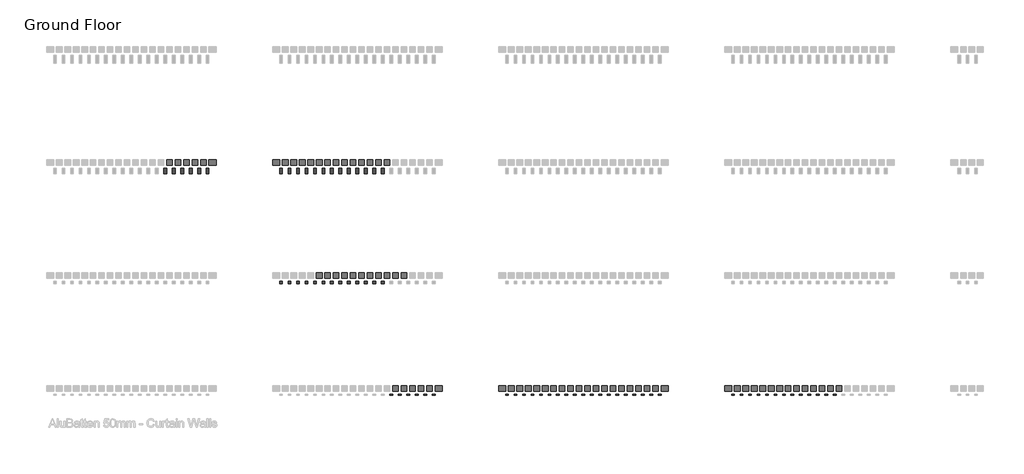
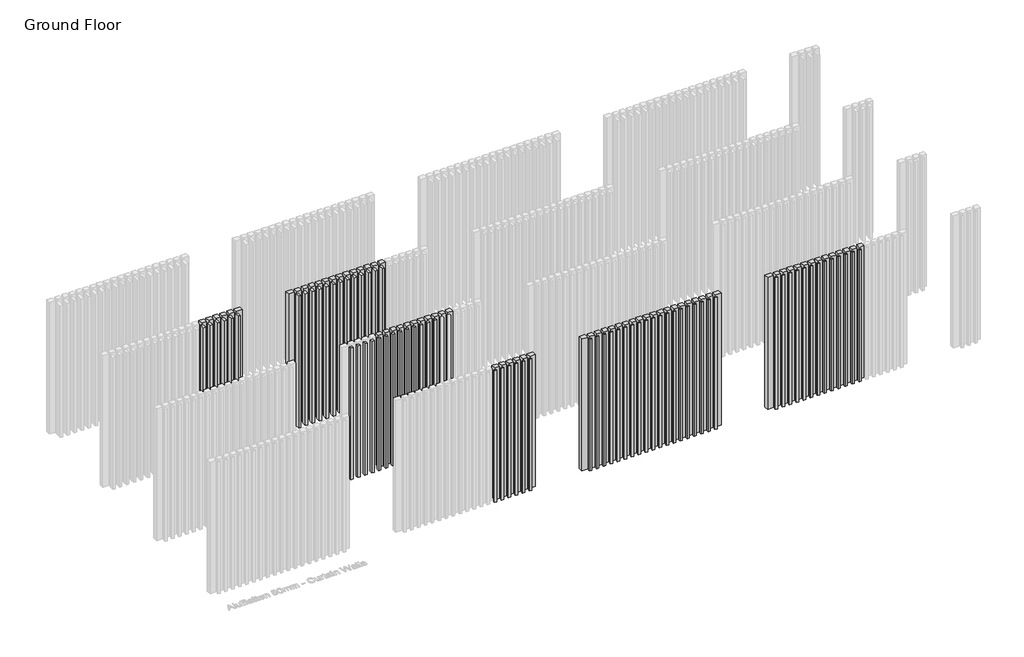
# One storey, part 13 of 350: 71 plates, 70 members.
"""IFC4 building model written with IfcOpenShell, lengths in millimetres."""

from ifc_helpers import new_model, si_unit, origin, place, context, project, spatial, transform, mapped, element, save
from components import rectangular_mullion_1e7650be, rectangular_mullion_114f6a8f, rectangular_mullion_e9fc8109, empty_system_panel_empty_a8601f27, empty_system_panel_empty_23ba90fe, empty_system_panel_empty_02e968fa

model = new_model("IFC4")

# Units and contexts
model_context = context("Model", 3, world=origin())
ifc_project = project(units=[si_unit("LENGTHUNIT", "METRE", prefix="MILLI")], contexts=[model_context])

# Site, building, storey
site = spatial("IfcSite", under=ifc_project)
building = spatial("IfcBuilding", under=site)
storey = spatial("IfcBuildingStorey", under=building, Name="Ground Floor", Elevation=0.0)

# Members
placement = place(None, origin())
rectangular_mullion_shape = rectangular_mullion_1e7650be(model_context)
element("IfcMember", 1, ObjectType="Rectangular Mullion : Batten_Aluminium_Modinex_AluBatten_50x50_Cedar", at=placement, inside=storey, context=model_context, shape_type="MappedRepresentation", body=[
    mapped(rectangular_mullion_shape, transform((6066.4361642, 20968.2978302, 0.0), x_axis=(1.0, 0.0, 0.0), y_axis=(0.0, -1.0, 0.0), z_axis=(0.0, 0.0, -1.0))),
])
element("IfcMember", 2, ObjectType="Rectangular Mullion : Batten_Aluminium_Modinex_AluBatten_50x50_Cedar", at=placement, inside=storey, context=model_context, shape_type="MappedRepresentation", body=[
    mapped(rectangular_mullion_shape, transform((6216.4361642, 20968.2978302, 0.0), x_axis=(1.0, 0.0, 0.0), y_axis=(0.0, -1.0, 0.0), z_axis=(0.0, 0.0, -1.0))),
])
element("IfcMember", 3, ObjectType="Rectangular Mullion : Batten_Aluminium_Modinex_AluBatten_50x50_Cedar", at=placement, inside=storey, context=model_context, shape_type="MappedRepresentation", body=[
    mapped(rectangular_mullion_shape, transform((6366.4361642, 20968.2978302, 0.0), x_axis=(1.0, 0.0, 0.0), y_axis=(0.0, -1.0, 0.0), z_axis=(0.0, 0.0, -1.0))),
])
element("IfcMember", 4, ObjectType="Rectangular Mullion : Batten_Aluminium_Modinex_AluBatten_50x50_Cedar", at=placement, inside=storey, context=model_context, shape_type="MappedRepresentation", body=[
    mapped(rectangular_mullion_shape, transform((6516.4361642, 20968.2978302, 0.0), x_axis=(1.0, 0.0, 0.0), y_axis=(0.0, -1.0, 0.0), z_axis=(0.0, 0.0, -1.0))),
])
element("IfcMember", 5, ObjectType="Rectangular Mullion : Batten_Aluminium_Modinex_AluBatten_50x50_Cedar", at=placement, inside=storey, context=model_context, shape_type="MappedRepresentation", body=[
    mapped(rectangular_mullion_shape, transform((6666.4361642, 20968.2978302, 0.0), x_axis=(1.0, 0.0, 0.0), y_axis=(0.0, -1.0, 0.0), z_axis=(0.0, 0.0, -1.0))),
])
element("IfcMember", 6, ObjectType="Rectangular Mullion : Batten_Aluminium_Modinex_AluBatten_50x50_Cedar", at=placement, inside=storey, context=model_context, shape_type="MappedRepresentation", body=[
    mapped(rectangular_mullion_shape, transform((6816.4361642, 20968.2978302, 0.0), x_axis=(1.0, 0.0, 0.0), y_axis=(0.0, -1.0, 0.0), z_axis=(0.0, 0.0, -1.0))),
])
element("IfcMember", 7, ObjectType="Rectangular Mullion : Batten_Aluminium_Modinex_AluBatten_50x50_Cedar", at=placement, inside=storey, context=model_context, shape_type="MappedRepresentation", body=[
    mapped(rectangular_mullion_shape, transform((6966.4361642, 20968.2978302, 0.0), x_axis=(1.0, 0.0, 0.0), y_axis=(0.0, -1.0, 0.0), z_axis=(0.0, 0.0, -1.0))),
])
element("IfcMember", 8, ObjectType="Rectangular Mullion : Batten_Aluminium_Modinex_AluBatten_50x50_Cedar", at=placement, inside=storey, context=model_context, shape_type="MappedRepresentation", body=[
    mapped(rectangular_mullion_shape, transform((7116.4361642, 20968.2978302, 0.0), x_axis=(1.0, 0.0, 0.0), y_axis=(0.0, -1.0, 0.0), z_axis=(0.0, 0.0, -1.0))),
])
element("IfcMember", 9, ObjectType="Rectangular Mullion : Batten_Aluminium_Modinex_AluBatten_50x50_Cedar", at=placement, inside=storey, context=model_context, shape_type="MappedRepresentation", body=[
    mapped(rectangular_mullion_shape, transform((7266.4361642, 20968.2978302, 0.0), x_axis=(1.0, 0.0, 0.0), y_axis=(0.0, -1.0, 0.0), z_axis=(0.0, 0.0, -1.0))),
])
element("IfcMember", 10, ObjectType="Rectangular Mullion : Batten_Aluminium_Modinex_AluBatten_50x50_Cedar", at=placement, inside=storey, context=model_context, shape_type="MappedRepresentation", body=[
    mapped(rectangular_mullion_shape, transform((7416.4361642, 20968.2978302, 0.0), x_axis=(1.0, 0.0, 0.0), y_axis=(0.0, -1.0, 0.0), z_axis=(0.0, 0.0, -1.0))),
])
element("IfcMember", 11, ObjectType="Rectangular Mullion : Batten_Aluminium_Modinex_AluBatten_50x50_Cedar", at=placement, inside=storey, context=model_context, shape_type="MappedRepresentation", body=[
    mapped(rectangular_mullion_shape, transform((7566.4361642, 20968.2978302, 0.0), x_axis=(1.0, 0.0, 0.0), y_axis=(0.0, -1.0, 0.0), z_axis=(0.0, 0.0, -1.0))),
])
element("IfcMember", 12, ObjectType="Rectangular Mullion : Batten_Aluminium_Modinex_AluBatten_50x50_Cedar", at=placement, inside=storey, context=model_context, shape_type="MappedRepresentation", body=[
    mapped(rectangular_mullion_shape, transform((7716.4361642, 20968.2978302, 0.0), x_axis=(1.0, 0.0, 0.0), y_axis=(0.0, -1.0, 0.0), z_axis=(0.0, 0.0, -1.0))),
])
element("IfcMember", 13, ObjectType="Rectangular Mullion : Batten_Aluminium_Modinex_AluBatten_50x50_Cedar", at=placement, inside=storey, context=model_context, shape_type="MappedRepresentation", body=[
    mapped(rectangular_mullion_shape, transform((7866.4361642, 20968.2978302, 0.0), x_axis=(1.0, 0.0, 0.0), y_axis=(0.0, -1.0, 0.0), z_axis=(0.0, 0.0, -1.0))),
])
rectangular_mullion_2_shape = rectangular_mullion_114f6a8f(model_context)
element("IfcMember", 14, ObjectType="Rectangular Mullion : Batten_Aluminium_Modinex_AluBatten_50x25_Cedar", at=placement, inside=storey, context=model_context, shape_type="MappedRepresentation", body=[
    mapped(rectangular_mullion_2_shape, transform((8016.4361642, 18968.2978302, 0.0), x_axis=(1.0, 0.0, 0.0), y_axis=(0.0, -1.0, 0.0), z_axis=(0.0, 0.0, -1.0))),
])
element("IfcMember", 15, ObjectType="Rectangular Mullion : Batten_Aluminium_Modinex_AluBatten_50x25_Cedar", at=placement, inside=storey, context=model_context, shape_type="MappedRepresentation", body=[
    mapped(rectangular_mullion_2_shape, transform((8166.4361642, 18968.2978302, 0.0), x_axis=(1.0, 0.0, 0.0), y_axis=(0.0, -1.0, 0.0), z_axis=(0.0, 0.0, -1.0))),
])
element("IfcMember", 16, ObjectType="Rectangular Mullion : Batten_Aluminium_Modinex_AluBatten_50x25_Cedar", at=placement, inside=storey, context=model_context, shape_type="MappedRepresentation", body=[
    mapped(rectangular_mullion_2_shape, transform((8316.4361642, 18968.2978302, 0.0), x_axis=(1.0, 0.0, 0.0), y_axis=(0.0, -1.0, 0.0), z_axis=(0.0, 0.0, -1.0))),
])
element("IfcMember", 17, ObjectType="Rectangular Mullion : Batten_Aluminium_Modinex_AluBatten_50x25_Cedar", at=placement, inside=storey, context=model_context, shape_type="MappedRepresentation", body=[
    mapped(rectangular_mullion_2_shape, transform((8466.4361642, 18968.2978302, 0.0), x_axis=(1.0, 0.0, 0.0), y_axis=(0.0, -1.0, 0.0), z_axis=(0.0, 0.0, -1.0))),
])
element("IfcMember", 18, ObjectType="Rectangular Mullion : Batten_Aluminium_Modinex_AluBatten_50x25_Cedar", at=placement, inside=storey, context=model_context, shape_type="MappedRepresentation", body=[
    mapped(rectangular_mullion_2_shape, transform((8616.4361642, 18968.2978302, 0.0), x_axis=(1.0, 0.0, 0.0), y_axis=(0.0, -1.0, 0.0), z_axis=(0.0, 0.0, -1.0))),
])
element("IfcMember", 19, ObjectType="Rectangular Mullion : Batten_Aluminium_Modinex_AluBatten_50x25_Cedar", at=placement, inside=storey, context=model_context, shape_type="MappedRepresentation", body=[
    mapped(rectangular_mullion_2_shape, transform((8766.4361642, 18968.2978302, 0.0), x_axis=(1.0, 0.0, 0.0), y_axis=(0.0, -1.0, 0.0), z_axis=(0.0, 0.0, -1.0))),
])
element("IfcMember", 20, ObjectType="Rectangular Mullion : Batten_Aluminium_Modinex_AluBatten_50x25_EnglishOak", at=placement, inside=storey, context=model_context, shape_type="MappedRepresentation", body=[
    mapped(rectangular_mullion_2_shape, transform((10066.4361642, 18968.2978302, 0.0), x_axis=(1.0, 0.0, 0.0), y_axis=(0.0, -1.0, 0.0), z_axis=(0.0, 0.0, -1.0))),
])
element("IfcMember", 21, ObjectType="Rectangular Mullion : Batten_Aluminium_Modinex_AluBatten_50x25_EnglishOak", at=placement, inside=storey, context=model_context, shape_type="MappedRepresentation", body=[
    mapped(rectangular_mullion_2_shape, transform((10216.4361642, 18968.2978302, 0.0), x_axis=(1.0, 0.0, 0.0), y_axis=(0.0, -1.0, 0.0), z_axis=(0.0, 0.0, -1.0))),
])
element("IfcMember", 22, ObjectType="Rectangular Mullion : Batten_Aluminium_Modinex_AluBatten_50x25_EnglishOak", at=placement, inside=storey, context=model_context, shape_type="MappedRepresentation", body=[
    mapped(rectangular_mullion_2_shape, transform((10366.4361642, 18968.2978302, 0.0), x_axis=(1.0, 0.0, 0.0), y_axis=(0.0, -1.0, 0.0), z_axis=(0.0, 0.0, -1.0))),
])
element("IfcMember", 23, ObjectType="Rectangular Mullion : Batten_Aluminium_Modinex_AluBatten_50x25_EnglishOak", at=placement, inside=storey, context=model_context, shape_type="MappedRepresentation", body=[
    mapped(rectangular_mullion_2_shape, transform((10516.4361642, 18968.2978302, 0.0), x_axis=(1.0, 0.0, 0.0), y_axis=(0.0, -1.0, 0.0), z_axis=(0.0, 0.0, -1.0))),
])
element("IfcMember", 24, ObjectType="Rectangular Mullion : Batten_Aluminium_Modinex_AluBatten_50x25_EnglishOak", at=placement, inside=storey, context=model_context, shape_type="MappedRepresentation", body=[
    mapped(rectangular_mullion_2_shape, transform((10666.4361642, 18968.2978302, 0.0), x_axis=(1.0, 0.0, 0.0), y_axis=(0.0, -1.0, 0.0), z_axis=(0.0, 0.0, -1.0))),
])
element("IfcMember", 25, ObjectType="Rectangular Mullion : Batten_Aluminium_Modinex_AluBatten_50x25_EnglishOak", at=placement, inside=storey, context=model_context, shape_type="MappedRepresentation", body=[
    mapped(rectangular_mullion_2_shape, transform((10816.4361642, 18968.2978302, 0.0), x_axis=(1.0, 0.0, 0.0), y_axis=(0.0, -1.0, 0.0), z_axis=(0.0, 0.0, -1.0))),
])
element("IfcMember", 26, ObjectType="Rectangular Mullion : Batten_Aluminium_Modinex_AluBatten_50x25_EnglishOak", at=placement, inside=storey, context=model_context, shape_type="MappedRepresentation", body=[
    mapped(rectangular_mullion_2_shape, transform((10966.4361642, 18968.2978302, 0.0), x_axis=(1.0, 0.0, 0.0), y_axis=(0.0, -1.0, 0.0), z_axis=(0.0, 0.0, -1.0))),
])
element("IfcMember", 27, ObjectType="Rectangular Mullion : Batten_Aluminium_Modinex_AluBatten_50x25_EnglishOak", at=placement, inside=storey, context=model_context, shape_type="MappedRepresentation", body=[
    mapped(rectangular_mullion_2_shape, transform((11116.4361642, 18968.2978302, 0.0), x_axis=(1.0, 0.0, 0.0), y_axis=(0.0, -1.0, 0.0), z_axis=(0.0, 0.0, -1.0))),
])
element("IfcMember", 28, ObjectType="Rectangular Mullion : Batten_Aluminium_Modinex_AluBatten_50x25_EnglishOak", at=placement, inside=storey, context=model_context, shape_type="MappedRepresentation", body=[
    mapped(rectangular_mullion_2_shape, transform((11266.4361642, 18968.2978302, 0.0), x_axis=(1.0, 0.0, 0.0), y_axis=(0.0, -1.0, 0.0), z_axis=(0.0, 0.0, -1.0))),
])
element("IfcMember", 29, ObjectType="Rectangular Mullion : Batten_Aluminium_Modinex_AluBatten_50x25_EnglishOak", at=placement, inside=storey, context=model_context, shape_type="MappedRepresentation", body=[
    mapped(rectangular_mullion_2_shape, transform((11416.4361642, 18968.2978302, 0.0), x_axis=(1.0, 0.0, 0.0), y_axis=(0.0, -1.0, 0.0), z_axis=(0.0, 0.0, -1.0))),
])
element("IfcMember", 30, ObjectType="Rectangular Mullion : Batten_Aluminium_Modinex_AluBatten_50x25_EnglishOak", at=placement, inside=storey, context=model_context, shape_type="MappedRepresentation", body=[
    mapped(rectangular_mullion_2_shape, transform((11566.4361642, 18968.2978302, 0.0), x_axis=(1.0, 0.0, 0.0), y_axis=(0.0, -1.0, 0.0), z_axis=(0.0, 0.0, -1.0))),
])
element("IfcMember", 31, ObjectType="Rectangular Mullion : Batten_Aluminium_Modinex_AluBatten_50x25_EnglishOak", at=placement, inside=storey, context=model_context, shape_type="MappedRepresentation", body=[
    mapped(rectangular_mullion_2_shape, transform((11716.4361642, 18968.2978302, 0.0), x_axis=(1.0, 0.0, 0.0), y_axis=(0.0, -1.0, 0.0), z_axis=(0.0, 0.0, -1.0))),
])
element("IfcMember", 32, ObjectType="Rectangular Mullion : Batten_Aluminium_Modinex_AluBatten_50x25_EnglishOak", at=placement, inside=storey, context=model_context, shape_type="MappedRepresentation", body=[
    mapped(rectangular_mullion_2_shape, transform((11866.4361642, 18968.2978302, 0.0), x_axis=(1.0, 0.0, 0.0), y_axis=(0.0, -1.0, 0.0), z_axis=(0.0, 0.0, -1.0))),
])
element("IfcMember", 33, ObjectType="Rectangular Mullion : Batten_Aluminium_Modinex_AluBatten_50x25_EnglishOak", at=placement, inside=storey, context=model_context, shape_type="MappedRepresentation", body=[
    mapped(rectangular_mullion_2_shape, transform((12016.4361642, 18968.2978302, 0.0), x_axis=(1.0, 0.0, 0.0), y_axis=(0.0, -1.0, 0.0), z_axis=(0.0, 0.0, -1.0))),
])
element("IfcMember", 34, ObjectType="Rectangular Mullion : Batten_Aluminium_Modinex_AluBatten_50x25_EnglishOak", at=placement, inside=storey, context=model_context, shape_type="MappedRepresentation", body=[
    mapped(rectangular_mullion_2_shape, transform((12166.4361642, 18968.2978302, 0.0), x_axis=(1.0, 0.0, 0.0), y_axis=(0.0, -1.0, 0.0), z_axis=(0.0, 0.0, -1.0))),
])
element("IfcMember", 35, ObjectType="Rectangular Mullion : Batten_Aluminium_Modinex_AluBatten_50x25_EnglishOak", at=placement, inside=storey, context=model_context, shape_type="MappedRepresentation", body=[
    mapped(rectangular_mullion_2_shape, transform((12316.4361642, 18968.2978302, 0.0), x_axis=(1.0, 0.0, 0.0), y_axis=(0.0, -1.0, 0.0), z_axis=(0.0, 0.0, -1.0))),
])
element("IfcMember", 36, ObjectType="Rectangular Mullion : Batten_Aluminium_Modinex_AluBatten_50x25_EnglishOak", at=placement, inside=storey, context=model_context, shape_type="MappedRepresentation", body=[
    mapped(rectangular_mullion_2_shape, transform((12466.4361642, 18968.2978302, 0.0), x_axis=(1.0, 0.0, 0.0), y_axis=(0.0, -1.0, 0.0), z_axis=(0.0, 0.0, -1.0))),
])
element("IfcMember", 37, ObjectType="Rectangular Mullion : Batten_Aluminium_Modinex_AluBatten_50x25_EnglishOak", at=placement, inside=storey, context=model_context, shape_type="MappedRepresentation", body=[
    mapped(rectangular_mullion_2_shape, transform((12616.4361642, 18968.2978302, 0.0), x_axis=(1.0, 0.0, 0.0), y_axis=(0.0, -1.0, 0.0), z_axis=(0.0, 0.0, -1.0))),
])
element("IfcMember", 38, ObjectType="Rectangular Mullion : Batten_Aluminium_Modinex_AluBatten_50x25_EnglishOak", at=placement, inside=storey, context=model_context, shape_type="MappedRepresentation", body=[
    mapped(rectangular_mullion_2_shape, transform((12766.4361642, 18968.2978302, 0.0), x_axis=(1.0, 0.0, 0.0), y_axis=(0.0, -1.0, 0.0), z_axis=(0.0, 0.0, -1.0))),
])
element("IfcMember", 39, ObjectType="Rectangular Mullion : Batten_Aluminium_Modinex_AluBatten_50x25_SpottedGum", at=placement, inside=storey, context=model_context, shape_type="MappedRepresentation", body=[
    mapped(rectangular_mullion_2_shape, transform((14066.4361642, 18968.2978302, 0.0), x_axis=(1.0, 0.0, 0.0), y_axis=(0.0, -1.0, 0.0), z_axis=(0.0, 0.0, -1.0))),
])
element("IfcMember", 40, ObjectType="Rectangular Mullion : Batten_Aluminium_Modinex_AluBatten_50x25_SpottedGum", at=placement, inside=storey, context=model_context, shape_type="MappedRepresentation", body=[
    mapped(rectangular_mullion_2_shape, transform((14216.4361642, 18968.2978302, 0.0), x_axis=(1.0, 0.0, 0.0), y_axis=(0.0, -1.0, 0.0), z_axis=(0.0, 0.0, -1.0))),
])
element("IfcMember", 41, ObjectType="Rectangular Mullion : Batten_Aluminium_Modinex_AluBatten_50x25_SpottedGum", at=placement, inside=storey, context=model_context, shape_type="MappedRepresentation", body=[
    mapped(rectangular_mullion_2_shape, transform((14366.4361642, 18968.2978302, 0.0), x_axis=(1.0, 0.0, 0.0), y_axis=(0.0, -1.0, 0.0), z_axis=(0.0, 0.0, -1.0))),
])
element("IfcMember", 42, ObjectType="Rectangular Mullion : Batten_Aluminium_Modinex_AluBatten_50x25_SpottedGum", at=placement, inside=storey, context=model_context, shape_type="MappedRepresentation", body=[
    mapped(rectangular_mullion_2_shape, transform((14516.4361642, 18968.2978302, 0.0), x_axis=(1.0, 0.0, 0.0), y_axis=(0.0, -1.0, 0.0), z_axis=(0.0, 0.0, -1.0))),
])
element("IfcMember", 43, ObjectType="Rectangular Mullion : Batten_Aluminium_Modinex_AluBatten_50x25_SpottedGum", at=placement, inside=storey, context=model_context, shape_type="MappedRepresentation", body=[
    mapped(rectangular_mullion_2_shape, transform((14666.4361642, 18968.2978302, 0.0), x_axis=(1.0, 0.0, 0.0), y_axis=(0.0, -1.0, 0.0), z_axis=(0.0, 0.0, -1.0))),
])
element("IfcMember", 44, ObjectType="Rectangular Mullion : Batten_Aluminium_Modinex_AluBatten_50x25_SpottedGum", at=placement, inside=storey, context=model_context, shape_type="MappedRepresentation", body=[
    mapped(rectangular_mullion_2_shape, transform((14816.4361642, 18968.2978302, 0.0), x_axis=(1.0, 0.0, 0.0), y_axis=(0.0, -1.0, 0.0), z_axis=(0.0, 0.0, -1.0))),
])
element("IfcMember", 45, ObjectType="Rectangular Mullion : Batten_Aluminium_Modinex_AluBatten_50x25_SpottedGum", at=placement, inside=storey, context=model_context, shape_type="MappedRepresentation", body=[
    mapped(rectangular_mullion_2_shape, transform((14966.4361642, 18968.2978302, 0.0), x_axis=(1.0, 0.0, 0.0), y_axis=(0.0, -1.0, 0.0), z_axis=(0.0, 0.0, -1.0))),
])
element("IfcMember", 46, ObjectType="Rectangular Mullion : Batten_Aluminium_Modinex_AluBatten_50x25_SpottedGum", at=placement, inside=storey, context=model_context, shape_type="MappedRepresentation", body=[
    mapped(rectangular_mullion_2_shape, transform((15116.4361642, 18968.2978302, 0.0), x_axis=(1.0, 0.0, 0.0), y_axis=(0.0, -1.0, 0.0), z_axis=(0.0, 0.0, -1.0))),
])
element("IfcMember", 47, ObjectType="Rectangular Mullion : Batten_Aluminium_Modinex_AluBatten_50x25_SpottedGum", at=placement, inside=storey, context=model_context, shape_type="MappedRepresentation", body=[
    mapped(rectangular_mullion_2_shape, transform((15266.4361642, 18968.2978302, 0.0), x_axis=(1.0, 0.0, 0.0), y_axis=(0.0, -1.0, 0.0), z_axis=(0.0, 0.0, -1.0))),
])
element("IfcMember", 48, ObjectType="Rectangular Mullion : Batten_Aluminium_Modinex_AluBatten_50x25_SpottedGum", at=placement, inside=storey, context=model_context, shape_type="MappedRepresentation", body=[
    mapped(rectangular_mullion_2_shape, transform((15416.4361642, 18968.2978302, 0.0), x_axis=(1.0, 0.0, 0.0), y_axis=(0.0, -1.0, 0.0), z_axis=(0.0, 0.0, -1.0))),
])
element("IfcMember", 49, ObjectType="Rectangular Mullion : Batten_Aluminium_Modinex_AluBatten_50x25_SpottedGum", at=placement, inside=storey, context=model_context, shape_type="MappedRepresentation", body=[
    mapped(rectangular_mullion_2_shape, transform((15566.4361642, 18968.2978302, 0.0), x_axis=(1.0, 0.0, 0.0), y_axis=(0.0, -1.0, 0.0), z_axis=(0.0, 0.0, -1.0))),
])
element("IfcMember", 50, ObjectType="Rectangular Mullion : Batten_Aluminium_Modinex_AluBatten_50x25_SpottedGum", at=placement, inside=storey, context=model_context, shape_type="MappedRepresentation", body=[
    mapped(rectangular_mullion_2_shape, transform((15716.4361642, 18968.2978302, 0.0), x_axis=(1.0, 0.0, 0.0), y_axis=(0.0, -1.0, 0.0), z_axis=(0.0, 0.0, -1.0))),
])
element("IfcMember", 51, ObjectType="Rectangular Mullion : Batten_Aluminium_Modinex_AluBatten_50x25_SpottedGum", at=placement, inside=storey, context=model_context, shape_type="MappedRepresentation", body=[
    mapped(rectangular_mullion_2_shape, transform((15866.4361642, 18968.2978302, 0.0), x_axis=(1.0, 0.0, 0.0), y_axis=(0.0, -1.0, 0.0), z_axis=(0.0, 0.0, -1.0))),
])
rectangular_mullion_3_shape = rectangular_mullion_e9fc8109(model_context)
element("IfcMember", 52, ObjectType="Rectangular Mullion : Batten_Aluminium_Modinex_AluBatten_50x100_AfricanEbony", at=placement, inside=storey, context=model_context, shape_type="MappedRepresentation", body=[
    mapped(rectangular_mullion_3_shape, transform((4016.4361642, 22968.2978302, 0.0), x_axis=(1.0, 0.0, 0.0), y_axis=(0.0, -1.0, 0.0), z_axis=(0.0, 0.0, -1.0))),
])
element("IfcMember", 53, ObjectType="Rectangular Mullion : Batten_Aluminium_Modinex_AluBatten_50x100_AfricanEbony", at=placement, inside=storey, context=model_context, shape_type="MappedRepresentation", body=[
    mapped(rectangular_mullion_3_shape, transform((4166.4361642, 22968.2978302, 0.0), x_axis=(1.0, 0.0, 0.0), y_axis=(0.0, -1.0, 0.0), z_axis=(0.0, 0.0, -1.0))),
])
element("IfcMember", 54, ObjectType="Rectangular Mullion : Batten_Aluminium_Modinex_AluBatten_50x100_AfricanEbony", at=placement, inside=storey, context=model_context, shape_type="MappedRepresentation", body=[
    mapped(rectangular_mullion_3_shape, transform((4316.4361642, 22968.2978302, 0.0), x_axis=(1.0, 0.0, 0.0), y_axis=(0.0, -1.0, 0.0), z_axis=(0.0, 0.0, -1.0))),
])
element("IfcMember", 55, ObjectType="Rectangular Mullion : Batten_Aluminium_Modinex_AluBatten_50x100_AfricanEbony", at=placement, inside=storey, context=model_context, shape_type="MappedRepresentation", body=[
    mapped(rectangular_mullion_3_shape, transform((4466.4361642, 22968.2978302, 0.0), x_axis=(1.0, 0.0, 0.0), y_axis=(0.0, -1.0, 0.0), z_axis=(0.0, 0.0, -1.0))),
])
element("IfcMember", 56, ObjectType="Rectangular Mullion : Batten_Aluminium_Modinex_AluBatten_50x100_AfricanEbony", at=placement, inside=storey, context=model_context, shape_type="MappedRepresentation", body=[
    mapped(rectangular_mullion_3_shape, transform((4616.4361642, 22968.2978302, 0.0), x_axis=(1.0, 0.0, 0.0), y_axis=(0.0, -1.0, 0.0), z_axis=(0.0, 0.0, -1.0))),
])
element("IfcMember", 57, ObjectType="Rectangular Mullion : Batten_Aluminium_Modinex_AluBatten_50x100_AfricanEbony", at=placement, inside=storey, context=model_context, shape_type="MappedRepresentation", body=[
    mapped(rectangular_mullion_3_shape, transform((4766.4361642, 22968.2978302, 0.0), x_axis=(1.0, 0.0, 0.0), y_axis=(0.0, -1.0, 0.0), z_axis=(0.0, 0.0, -1.0))),
])
element("IfcMember", 58, ObjectType="Rectangular Mullion : Batten_Aluminium_Modinex_AluBatten_50x100_Cedar", at=placement, inside=storey, context=model_context, shape_type="MappedRepresentation", body=[
    mapped(rectangular_mullion_3_shape, transform((6066.4361642, 22968.2978302, 0.0), x_axis=(1.0, 0.0, 0.0), y_axis=(0.0, -1.0, 0.0), z_axis=(0.0, 0.0, -1.0))),
])
element("IfcMember", 59, ObjectType="Rectangular Mullion : Batten_Aluminium_Modinex_AluBatten_50x100_Cedar", at=placement, inside=storey, context=model_context, shape_type="MappedRepresentation", body=[
    mapped(rectangular_mullion_3_shape, transform((6216.4361642, 22968.2978302, 0.0), x_axis=(1.0, 0.0, 0.0), y_axis=(0.0, -1.0, 0.0), z_axis=(0.0, 0.0, -1.0))),
])
element("IfcMember", 60, ObjectType="Rectangular Mullion : Batten_Aluminium_Modinex_AluBatten_50x100_Cedar", at=placement, inside=storey, context=model_context, shape_type="MappedRepresentation", body=[
    mapped(rectangular_mullion_3_shape, transform((6366.4361642, 22968.2978302, 0.0), x_axis=(1.0, 0.0, 0.0), y_axis=(0.0, -1.0, 0.0), z_axis=(0.0, 0.0, -1.0))),
])
element("IfcMember", 61, ObjectType="Rectangular Mullion : Batten_Aluminium_Modinex_AluBatten_50x100_Cedar", at=placement, inside=storey, context=model_context, shape_type="MappedRepresentation", body=[
    mapped(rectangular_mullion_3_shape, transform((6516.4361642, 22968.2978302, 0.0), x_axis=(1.0, 0.0, 0.0), y_axis=(0.0, -1.0, 0.0), z_axis=(0.0, 0.0, -1.0))),
])
element("IfcMember", 62, ObjectType="Rectangular Mullion : Batten_Aluminium_Modinex_AluBatten_50x100_Cedar", at=placement, inside=storey, context=model_context, shape_type="MappedRepresentation", body=[
    mapped(rectangular_mullion_3_shape, transform((6666.4361642, 22968.2978302, 0.0), x_axis=(1.0, 0.0, 0.0), y_axis=(0.0, -1.0, 0.0), z_axis=(0.0, 0.0, -1.0))),
])
element("IfcMember", 63, ObjectType="Rectangular Mullion : Batten_Aluminium_Modinex_AluBatten_50x100_Cedar", at=placement, inside=storey, context=model_context, shape_type="MappedRepresentation", body=[
    mapped(rectangular_mullion_3_shape, transform((6816.4361642, 22968.2978302, 0.0), x_axis=(1.0, 0.0, 0.0), y_axis=(0.0, -1.0, 0.0), z_axis=(0.0, 0.0, -1.0))),
])
element("IfcMember", 64, ObjectType="Rectangular Mullion : Batten_Aluminium_Modinex_AluBatten_50x100_Cedar", at=placement, inside=storey, context=model_context, shape_type="MappedRepresentation", body=[
    mapped(rectangular_mullion_3_shape, transform((6966.4361642, 22968.2978302, 0.0), x_axis=(1.0, 0.0, 0.0), y_axis=(0.0, -1.0, 0.0), z_axis=(0.0, 0.0, -1.0))),
])
element("IfcMember", 65, ObjectType="Rectangular Mullion : Batten_Aluminium_Modinex_AluBatten_50x100_Cedar", at=placement, inside=storey, context=model_context, shape_type="MappedRepresentation", body=[
    mapped(rectangular_mullion_3_shape, transform((7116.4361642, 22968.2978302, 0.0), x_axis=(1.0, 0.0, 0.0), y_axis=(0.0, -1.0, 0.0), z_axis=(0.0, 0.0, -1.0))),
])
element("IfcMember", 66, ObjectType="Rectangular Mullion : Batten_Aluminium_Modinex_AluBatten_50x100_Cedar", at=placement, inside=storey, context=model_context, shape_type="MappedRepresentation", body=[
    mapped(rectangular_mullion_3_shape, transform((7266.4361642, 22968.2978302, 0.0), x_axis=(1.0, 0.0, 0.0), y_axis=(0.0, -1.0, 0.0), z_axis=(0.0, 0.0, -1.0))),
])
element("IfcMember", 67, ObjectType="Rectangular Mullion : Batten_Aluminium_Modinex_AluBatten_50x100_Cedar", at=placement, inside=storey, context=model_context, shape_type="MappedRepresentation", body=[
    mapped(rectangular_mullion_3_shape, transform((7416.4361642, 22968.2978302, 0.0), x_axis=(1.0, 0.0, 0.0), y_axis=(0.0, -1.0, 0.0), z_axis=(0.0, 0.0, -1.0))),
])
element("IfcMember", 68, ObjectType="Rectangular Mullion : Batten_Aluminium_Modinex_AluBatten_50x100_Cedar", at=placement, inside=storey, context=model_context, shape_type="MappedRepresentation", body=[
    mapped(rectangular_mullion_3_shape, transform((7566.4361642, 22968.2978302, 0.0), x_axis=(1.0, 0.0, 0.0), y_axis=(0.0, -1.0, 0.0), z_axis=(0.0, 0.0, -1.0))),
])
element("IfcMember", 69, ObjectType="Rectangular Mullion : Batten_Aluminium_Modinex_AluBatten_50x100_Cedar", at=placement, inside=storey, context=model_context, shape_type="MappedRepresentation", body=[
    mapped(rectangular_mullion_3_shape, transform((7716.4361642, 22968.2978302, 0.0), x_axis=(1.0, 0.0, 0.0), y_axis=(0.0, -1.0, 0.0), z_axis=(0.0, 0.0, -1.0))),
])
element("IfcMember", 70, ObjectType="Rectangular Mullion : Batten_Aluminium_Modinex_AluBatten_50x100_Cedar", at=placement, inside=storey, context=model_context, shape_type="MappedRepresentation", body=[
    mapped(rectangular_mullion_3_shape, transform((7866.4361642, 22968.2978302, 0.0), x_axis=(1.0, 0.0, 0.0), y_axis=(0.0, -1.0, 0.0), z_axis=(0.0, 0.0, -1.0))),
])

# Plates
empty_system_panel_empty_shape = empty_system_panel_empty_a8601f27(model_context)
element("IfcPlate", 71, ObjectType="Empty System Panel : Empty", at=placement, inside=storey, context=model_context, shape_type="MappedRepresentation", body=[
    mapped(empty_system_panel_empty_shape, transform((9978.9361641, 18968.2978302, 0.0), x_axis=(1.0, 0.0, 0.0), y_axis=(0.0, 1.0, 0.0), z_axis=(0.0, 0.0, 1.0))),
])
element("IfcPlate", 72, ObjectType="Empty System Panel : Empty", at=placement, inside=storey, context=model_context, shape_type="MappedRepresentation", body=[
    mapped(empty_system_panel_empty_shape, transform((13978.9361641, 18968.2978302, 0.0), x_axis=(1.0, 0.0, 0.0), y_axis=(0.0, 1.0, 0.0), z_axis=(0.0, 0.0, 1.0))),
])
element("IfcPlate", 73, ObjectType="Empty System Panel : Empty", at=placement, inside=storey, context=model_context, shape_type="MappedRepresentation", body=[
    mapped(empty_system_panel_empty_shape, transform((5978.9361641, 22968.2978302, 0.0), x_axis=(1.0, 0.0, 0.0), y_axis=(0.0, 1.0, 0.0), z_axis=(0.0, 0.0, 1.0))),
])
empty_system_panel_empty_2_shape = empty_system_panel_empty_23ba90fe(model_context)
element("IfcPlate", 74, ObjectType="Empty System Panel : Empty", at=placement, inside=storey, context=model_context, shape_type="MappedRepresentation", body=[
    mapped(empty_system_panel_empty_2_shape, transform((8091.4361642, 18968.2978302, 0.0), x_axis=(1.0, 0.0, 0.0), y_axis=(0.0, 1.0, 0.0), z_axis=(0.0, 0.0, 1.0))),
])
element("IfcPlate", 75, ObjectType="Empty System Panel : Empty", at=placement, inside=storey, context=model_context, shape_type="MappedRepresentation", body=[
    mapped(empty_system_panel_empty_2_shape, transform((8241.4361642, 18968.2978302, 0.0), x_axis=(1.0, 0.0, 0.0), y_axis=(0.0, 1.0, 0.0), z_axis=(0.0, 0.0, 1.0))),
])
element("IfcPlate", 76, ObjectType="Empty System Panel : Empty", at=placement, inside=storey, context=model_context, shape_type="MappedRepresentation", body=[
    mapped(empty_system_panel_empty_2_shape, transform((8391.4361642, 18968.2978302, 0.0), x_axis=(1.0, 0.0, 0.0), y_axis=(0.0, 1.0, 0.0), z_axis=(0.0, 0.0, 1.0))),
])
element("IfcPlate", 77, ObjectType="Empty System Panel : Empty", at=placement, inside=storey, context=model_context, shape_type="MappedRepresentation", body=[
    mapped(empty_system_panel_empty_2_shape, transform((8541.4361642, 18968.2978302, 0.0), x_axis=(1.0, 0.0, 0.0), y_axis=(0.0, 1.0, 0.0), z_axis=(0.0, 0.0, 1.0))),
])
element("IfcPlate", 78, ObjectType="Empty System Panel : Empty", at=placement, inside=storey, context=model_context, shape_type="MappedRepresentation", body=[
    mapped(empty_system_panel_empty_2_shape, transform((8691.4361642, 18968.2978302, 0.0), x_axis=(1.0, 0.0, 0.0), y_axis=(0.0, 1.0, 0.0), z_axis=(0.0, 0.0, 1.0))),
])
element("IfcPlate", 79, ObjectType="Empty System Panel : Empty", at=placement, inside=storey, context=model_context, shape_type="MappedRepresentation", body=[
    mapped(empty_system_panel_empty_2_shape, transform((10141.4361642, 18968.2978302, 0.0), x_axis=(1.0, 0.0, 0.0), y_axis=(0.0, 1.0, 0.0), z_axis=(0.0, 0.0, 1.0))),
])
element("IfcPlate", 80, ObjectType="Empty System Panel : Empty", at=placement, inside=storey, context=model_context, shape_type="MappedRepresentation", body=[
    mapped(empty_system_panel_empty_2_shape, transform((10291.4361642, 18968.2978302, 0.0), x_axis=(1.0, 0.0, 0.0), y_axis=(0.0, 1.0, 0.0), z_axis=(0.0, 0.0, 1.0))),
])
element("IfcPlate", 81, ObjectType="Empty System Panel : Empty", at=placement, inside=storey, context=model_context, shape_type="MappedRepresentation", body=[
    mapped(empty_system_panel_empty_2_shape, transform((10441.4361642, 18968.2978302, 0.0), x_axis=(1.0, 0.0, 0.0), y_axis=(0.0, 1.0, 0.0), z_axis=(0.0, 0.0, 1.0))),
])
element("IfcPlate", 82, ObjectType="Empty System Panel : Empty", at=placement, inside=storey, context=model_context, shape_type="MappedRepresentation", body=[
    mapped(empty_system_panel_empty_2_shape, transform((10591.4361642, 18968.2978302, 0.0), x_axis=(1.0, 0.0, 0.0), y_axis=(0.0, 1.0, 0.0), z_axis=(0.0, 0.0, 1.0))),
])
element("IfcPlate", 83, ObjectType="Empty System Panel : Empty", at=placement, inside=storey, context=model_context, shape_type="MappedRepresentation", body=[
    mapped(empty_system_panel_empty_2_shape, transform((10741.4361642, 18968.2978302, 0.0), x_axis=(1.0, 0.0, 0.0), y_axis=(0.0, 1.0, 0.0), z_axis=(0.0, 0.0, 1.0))),
])
element("IfcPlate", 84, ObjectType="Empty System Panel : Empty", at=placement, inside=storey, context=model_context, shape_type="MappedRepresentation", body=[
    mapped(empty_system_panel_empty_2_shape, transform((10891.4361642, 18968.2978302, 0.0), x_axis=(1.0, 0.0, 0.0), y_axis=(0.0, 1.0, 0.0), z_axis=(0.0, 0.0, 1.0))),
])
element("IfcPlate", 85, ObjectType="Empty System Panel : Empty", at=placement, inside=storey, context=model_context, shape_type="MappedRepresentation", body=[
    mapped(empty_system_panel_empty_2_shape, transform((11041.4361642, 18968.2978302, 0.0), x_axis=(1.0, 0.0, 0.0), y_axis=(0.0, 1.0, 0.0), z_axis=(0.0, 0.0, 1.0))),
])
element("IfcPlate", 86, ObjectType="Empty System Panel : Empty", at=placement, inside=storey, context=model_context, shape_type="MappedRepresentation", body=[
    mapped(empty_system_panel_empty_2_shape, transform((11191.4361642, 18968.2978302, 0.0), x_axis=(1.0, 0.0, 0.0), y_axis=(0.0, 1.0, 0.0), z_axis=(0.0, 0.0, 1.0))),
])
element("IfcPlate", 87, ObjectType="Empty System Panel : Empty", at=placement, inside=storey, context=model_context, shape_type="MappedRepresentation", body=[
    mapped(empty_system_panel_empty_2_shape, transform((11341.4361642, 18968.2978302, 0.0), x_axis=(1.0, 0.0, 0.0), y_axis=(0.0, 1.0, 0.0), z_axis=(0.0, 0.0, 1.0))),
])
element("IfcPlate", 88, ObjectType="Empty System Panel : Empty", at=placement, inside=storey, context=model_context, shape_type="MappedRepresentation", body=[
    mapped(empty_system_panel_empty_2_shape, transform((11491.4361642, 18968.2978302, 0.0), x_axis=(1.0, 0.0, 0.0), y_axis=(0.0, 1.0, 0.0), z_axis=(0.0, 0.0, 1.0))),
])
element("IfcPlate", 89, ObjectType="Empty System Panel : Empty", at=placement, inside=storey, context=model_context, shape_type="MappedRepresentation", body=[
    mapped(empty_system_panel_empty_2_shape, transform((11641.4361642, 18968.2978302, 0.0), x_axis=(1.0, 0.0, 0.0), y_axis=(0.0, 1.0, 0.0), z_axis=(0.0, 0.0, 1.0))),
])
element("IfcPlate", 90, ObjectType="Empty System Panel : Empty", at=placement, inside=storey, context=model_context, shape_type="MappedRepresentation", body=[
    mapped(empty_system_panel_empty_2_shape, transform((11791.4361642, 18968.2978302, 0.0), x_axis=(1.0, 0.0, 0.0), y_axis=(0.0, 1.0, 0.0), z_axis=(0.0, 0.0, 1.0))),
])
element("IfcPlate", 91, ObjectType="Empty System Panel : Empty", at=placement, inside=storey, context=model_context, shape_type="MappedRepresentation", body=[
    mapped(empty_system_panel_empty_2_shape, transform((11941.4361642, 18968.2978302, 0.0), x_axis=(1.0, 0.0, 0.0), y_axis=(0.0, 1.0, 0.0), z_axis=(0.0, 0.0, 1.0))),
])
element("IfcPlate", 92, ObjectType="Empty System Panel : Empty", at=placement, inside=storey, context=model_context, shape_type="MappedRepresentation", body=[
    mapped(empty_system_panel_empty_2_shape, transform((12091.4361642, 18968.2978302, 0.0), x_axis=(1.0, 0.0, 0.0), y_axis=(0.0, 1.0, 0.0), z_axis=(0.0, 0.0, 1.0))),
])
element("IfcPlate", 93, ObjectType="Empty System Panel : Empty", at=placement, inside=storey, context=model_context, shape_type="MappedRepresentation", body=[
    mapped(empty_system_panel_empty_2_shape, transform((12241.4361642, 18968.2978302, 0.0), x_axis=(1.0, 0.0, 0.0), y_axis=(0.0, 1.0, 0.0), z_axis=(0.0, 0.0, 1.0))),
])
element("IfcPlate", 94, ObjectType="Empty System Panel : Empty", at=placement, inside=storey, context=model_context, shape_type="MappedRepresentation", body=[
    mapped(empty_system_panel_empty_2_shape, transform((12391.4361642, 18968.2978302, 0.0), x_axis=(1.0, 0.0, 0.0), y_axis=(0.0, 1.0, 0.0), z_axis=(0.0, 0.0, 1.0))),
])
element("IfcPlate", 95, ObjectType="Empty System Panel : Empty", at=placement, inside=storey, context=model_context, shape_type="MappedRepresentation", body=[
    mapped(empty_system_panel_empty_2_shape, transform((12541.4361642, 18968.2978302, 0.0), x_axis=(1.0, 0.0, 0.0), y_axis=(0.0, 1.0, 0.0), z_axis=(0.0, 0.0, 1.0))),
])
element("IfcPlate", 96, ObjectType="Empty System Panel : Empty", at=placement, inside=storey, context=model_context, shape_type="MappedRepresentation", body=[
    mapped(empty_system_panel_empty_2_shape, transform((12691.4361642, 18968.2978302, 0.0), x_axis=(1.0, 0.0, 0.0), y_axis=(0.0, 1.0, 0.0), z_axis=(0.0, 0.0, 1.0))),
])
element("IfcPlate", 97, ObjectType="Empty System Panel : Empty", at=placement, inside=storey, context=model_context, shape_type="MappedRepresentation", body=[
    mapped(empty_system_panel_empty_2_shape, transform((14141.4361642, 18968.2978302, 0.0), x_axis=(1.0, 0.0, 0.0), y_axis=(0.0, 1.0, 0.0), z_axis=(0.0, 0.0, 1.0))),
])
element("IfcPlate", 98, ObjectType="Empty System Panel : Empty", at=placement, inside=storey, context=model_context, shape_type="MappedRepresentation", body=[
    mapped(empty_system_panel_empty_2_shape, transform((14291.4361642, 18968.2978302, 0.0), x_axis=(1.0, 0.0, 0.0), y_axis=(0.0, 1.0, 0.0), z_axis=(0.0, 0.0, 1.0))),
])
element("IfcPlate", 99, ObjectType="Empty System Panel : Empty", at=placement, inside=storey, context=model_context, shape_type="MappedRepresentation", body=[
    mapped(empty_system_panel_empty_2_shape, transform((14441.4361642, 18968.2978302, 0.0), x_axis=(1.0, 0.0, 0.0), y_axis=(0.0, 1.0, 0.0), z_axis=(0.0, 0.0, 1.0))),
])
element("IfcPlate", 100, ObjectType="Empty System Panel : Empty", at=placement, inside=storey, context=model_context, shape_type="MappedRepresentation", body=[
    mapped(empty_system_panel_empty_2_shape, transform((14591.4361642, 18968.2978302, 0.0), x_axis=(1.0, 0.0, 0.0), y_axis=(0.0, 1.0, 0.0), z_axis=(0.0, 0.0, 1.0))),
])
element("IfcPlate", 101, ObjectType="Empty System Panel : Empty", at=placement, inside=storey, context=model_context, shape_type="MappedRepresentation", body=[
    mapped(empty_system_panel_empty_2_shape, transform((14741.4361642, 18968.2978302, 0.0), x_axis=(1.0, 0.0, 0.0), y_axis=(0.0, 1.0, 0.0), z_axis=(0.0, 0.0, 1.0))),
])
element("IfcPlate", 102, ObjectType="Empty System Panel : Empty", at=placement, inside=storey, context=model_context, shape_type="MappedRepresentation", body=[
    mapped(empty_system_panel_empty_2_shape, transform((14891.4361642, 18968.2978302, 0.0), x_axis=(1.0, 0.0, 0.0), y_axis=(0.0, 1.0, 0.0), z_axis=(0.0, 0.0, 1.0))),
])
element("IfcPlate", 103, ObjectType="Empty System Panel : Empty", at=placement, inside=storey, context=model_context, shape_type="MappedRepresentation", body=[
    mapped(empty_system_panel_empty_2_shape, transform((15041.4361642, 18968.2978302, 0.0), x_axis=(1.0, 0.0, 0.0), y_axis=(0.0, 1.0, 0.0), z_axis=(0.0, 0.0, 1.0))),
])
element("IfcPlate", 104, ObjectType="Empty System Panel : Empty", at=placement, inside=storey, context=model_context, shape_type="MappedRepresentation", body=[
    mapped(empty_system_panel_empty_2_shape, transform((15191.4361642, 18968.2978302, 0.0), x_axis=(1.0, 0.0, 0.0), y_axis=(0.0, 1.0, 0.0), z_axis=(0.0, 0.0, 1.0))),
])
element("IfcPlate", 105, ObjectType="Empty System Panel : Empty", at=placement, inside=storey, context=model_context, shape_type="MappedRepresentation", body=[
    mapped(empty_system_panel_empty_2_shape, transform((15341.4361642, 18968.2978302, 0.0), x_axis=(1.0, 0.0, 0.0), y_axis=(0.0, 1.0, 0.0), z_axis=(0.0, 0.0, 1.0))),
])
element("IfcPlate", 106, ObjectType="Empty System Panel : Empty", at=placement, inside=storey, context=model_context, shape_type="MappedRepresentation", body=[
    mapped(empty_system_panel_empty_2_shape, transform((15491.4361642, 18968.2978302, 0.0), x_axis=(1.0, 0.0, 0.0), y_axis=(0.0, 1.0, 0.0), z_axis=(0.0, 0.0, 1.0))),
])
element("IfcPlate", 107, ObjectType="Empty System Panel : Empty", at=placement, inside=storey, context=model_context, shape_type="MappedRepresentation", body=[
    mapped(empty_system_panel_empty_2_shape, transform((15641.4361642, 18968.2978302, 0.0), x_axis=(1.0, 0.0, 0.0), y_axis=(0.0, 1.0, 0.0), z_axis=(0.0, 0.0, 1.0))),
])
element("IfcPlate", 108, ObjectType="Empty System Panel : Empty", at=placement, inside=storey, context=model_context, shape_type="MappedRepresentation", body=[
    mapped(empty_system_panel_empty_2_shape, transform((15791.4361642, 18968.2978302, 0.0), x_axis=(1.0, 0.0, 0.0), y_axis=(0.0, 1.0, 0.0), z_axis=(0.0, 0.0, 1.0))),
])
element("IfcPlate", 109, ObjectType="Empty System Panel : Empty", at=placement, inside=storey, context=model_context, shape_type="MappedRepresentation", body=[
    mapped(empty_system_panel_empty_2_shape, transform((15941.4361642, 18968.2978302, 0.0), x_axis=(1.0, 0.0, 0.0), y_axis=(0.0, 1.0, 0.0), z_axis=(0.0, 0.0, 1.0))),
])
element("IfcPlate", 110, ObjectType="Empty System Panel : Empty", at=placement, inside=storey, context=model_context, shape_type="MappedRepresentation", body=[
    mapped(empty_system_panel_empty_2_shape, transform((6741.4361642, 20968.2978302, 0.0), x_axis=(1.0, 0.0, 0.0), y_axis=(0.0, 1.0, 0.0), z_axis=(0.0, 0.0, 1.0))),
])
element("IfcPlate", 111, ObjectType="Empty System Panel : Empty", at=placement, inside=storey, context=model_context, shape_type="MappedRepresentation", body=[
    mapped(empty_system_panel_empty_2_shape, transform((6891.4361642, 20968.2978302, 0.0), x_axis=(1.0, 0.0, 0.0), y_axis=(0.0, 1.0, 0.0), z_axis=(0.0, 0.0, 1.0))),
])
element("IfcPlate", 112, ObjectType="Empty System Panel : Empty", at=placement, inside=storey, context=model_context, shape_type="MappedRepresentation", body=[
    mapped(empty_system_panel_empty_2_shape, transform((7041.4361642, 20968.2978302, 0.0), x_axis=(1.0, 0.0, 0.0), y_axis=(0.0, 1.0, 0.0), z_axis=(0.0, 0.0, 1.0))),
])
element("IfcPlate", 113, ObjectType="Empty System Panel : Empty", at=placement, inside=storey, context=model_context, shape_type="MappedRepresentation", body=[
    mapped(empty_system_panel_empty_2_shape, transform((7191.4361642, 20968.2978302, 0.0), x_axis=(1.0, 0.0, 0.0), y_axis=(0.0, 1.0, 0.0), z_axis=(0.0, 0.0, 1.0))),
])
element("IfcPlate", 114, ObjectType="Empty System Panel : Empty", at=placement, inside=storey, context=model_context, shape_type="MappedRepresentation", body=[
    mapped(empty_system_panel_empty_2_shape, transform((7341.4361642, 20968.2978302, 0.0), x_axis=(1.0, 0.0, 0.0), y_axis=(0.0, 1.0, 0.0), z_axis=(0.0, 0.0, 1.0))),
])
element("IfcPlate", 115, ObjectType="Empty System Panel : Empty", at=placement, inside=storey, context=model_context, shape_type="MappedRepresentation", body=[
    mapped(empty_system_panel_empty_2_shape, transform((7491.4361642, 20968.2978302, 0.0), x_axis=(1.0, 0.0, 0.0), y_axis=(0.0, 1.0, 0.0), z_axis=(0.0, 0.0, 1.0))),
])
element("IfcPlate", 116, ObjectType="Empty System Panel : Empty", at=placement, inside=storey, context=model_context, shape_type="MappedRepresentation", body=[
    mapped(empty_system_panel_empty_2_shape, transform((7641.4361642, 20968.2978302, 0.0), x_axis=(1.0, 0.0, 0.0), y_axis=(0.0, 1.0, 0.0), z_axis=(0.0, 0.0, 1.0))),
])
element("IfcPlate", 117, ObjectType="Empty System Panel : Empty", at=placement, inside=storey, context=model_context, shape_type="MappedRepresentation", body=[
    mapped(empty_system_panel_empty_2_shape, transform((7791.4361642, 20968.2978302, 0.0), x_axis=(1.0, 0.0, 0.0), y_axis=(0.0, 1.0, 0.0), z_axis=(0.0, 0.0, 1.0))),
])
element("IfcPlate", 118, ObjectType="Empty System Panel : Empty", at=placement, inside=storey, context=model_context, shape_type="MappedRepresentation", body=[
    mapped(empty_system_panel_empty_2_shape, transform((7941.4361642, 20968.2978302, 0.0), x_axis=(1.0, 0.0, 0.0), y_axis=(0.0, 1.0, 0.0), z_axis=(0.0, 0.0, 1.0))),
])
element("IfcPlate", 119, ObjectType="Empty System Panel : Empty", at=placement, inside=storey, context=model_context, shape_type="MappedRepresentation", body=[
    mapped(empty_system_panel_empty_2_shape, transform((8091.4361642, 20968.2978302, 0.0), x_axis=(1.0, 0.0, 0.0), y_axis=(0.0, 1.0, 0.0), z_axis=(0.0, 0.0, 1.0))),
])
element("IfcPlate", 120, ObjectType="Empty System Panel : Empty", at=placement, inside=storey, context=model_context, shape_type="MappedRepresentation", body=[
    mapped(empty_system_panel_empty_2_shape, transform((8241.4361642, 20968.2978302, 0.0), x_axis=(1.0, 0.0, 0.0), y_axis=(0.0, 1.0, 0.0), z_axis=(0.0, 0.0, 1.0))),
])
element("IfcPlate", 121, ObjectType="Empty System Panel : Empty", at=placement, inside=storey, context=model_context, shape_type="MappedRepresentation", body=[
    mapped(empty_system_panel_empty_2_shape, transform((4091.4361642, 22968.2978302, 0.0), x_axis=(1.0, 0.0, 0.0), y_axis=(0.0, 1.0, 0.0), z_axis=(0.0, 0.0, 1.0))),
])
element("IfcPlate", 122, ObjectType="Empty System Panel : Empty", at=placement, inside=storey, context=model_context, shape_type="MappedRepresentation", body=[
    mapped(empty_system_panel_empty_2_shape, transform((4241.4361642, 22968.2978302, 0.0), x_axis=(1.0, 0.0, 0.0), y_axis=(0.0, 1.0, 0.0), z_axis=(0.0, 0.0, 1.0))),
])
element("IfcPlate", 123, ObjectType="Empty System Panel : Empty", at=placement, inside=storey, context=model_context, shape_type="MappedRepresentation", body=[
    mapped(empty_system_panel_empty_2_shape, transform((4391.4361642, 22968.2978302, 0.0), x_axis=(1.0, 0.0, 0.0), y_axis=(0.0, 1.0, 0.0), z_axis=(0.0, 0.0, 1.0))),
])
element("IfcPlate", 124, ObjectType="Empty System Panel : Empty", at=placement, inside=storey, context=model_context, shape_type="MappedRepresentation", body=[
    mapped(empty_system_panel_empty_2_shape, transform((4541.4361642, 22968.2978302, 0.0), x_axis=(1.0, 0.0, 0.0), y_axis=(0.0, 1.0, 0.0), z_axis=(0.0, 0.0, 1.0))),
])
element("IfcPlate", 125, ObjectType="Empty System Panel : Empty", at=placement, inside=storey, context=model_context, shape_type="MappedRepresentation", body=[
    mapped(empty_system_panel_empty_2_shape, transform((4691.4361642, 22968.2978302, 0.0), x_axis=(1.0, 0.0, 0.0), y_axis=(0.0, 1.0, 0.0), z_axis=(0.0, 0.0, 1.0))),
])
element("IfcPlate", 126, ObjectType="Empty System Panel : Empty", at=placement, inside=storey, context=model_context, shape_type="MappedRepresentation", body=[
    mapped(empty_system_panel_empty_2_shape, transform((6141.4361642, 22968.2978302, 0.0), x_axis=(1.0, 0.0, 0.0), y_axis=(0.0, 1.0, 0.0), z_axis=(0.0, 0.0, 1.0))),
])
element("IfcPlate", 127, ObjectType="Empty System Panel : Empty", at=placement, inside=storey, context=model_context, shape_type="MappedRepresentation", body=[
    mapped(empty_system_panel_empty_2_shape, transform((6291.4361642, 22968.2978302, 0.0), x_axis=(1.0, 0.0, 0.0), y_axis=(0.0, 1.0, 0.0), z_axis=(0.0, 0.0, 1.0))),
])
element("IfcPlate", 128, ObjectType="Empty System Panel : Empty", at=placement, inside=storey, context=model_context, shape_type="MappedRepresentation", body=[
    mapped(empty_system_panel_empty_2_shape, transform((6441.4361642, 22968.2978302, 0.0), x_axis=(1.0, 0.0, 0.0), y_axis=(0.0, 1.0, 0.0), z_axis=(0.0, 0.0, 1.0))),
])
element("IfcPlate", 129, ObjectType="Empty System Panel : Empty", at=placement, inside=storey, context=model_context, shape_type="MappedRepresentation", body=[
    mapped(empty_system_panel_empty_2_shape, transform((6591.4361642, 22968.2978302, 0.0), x_axis=(1.0, 0.0, 0.0), y_axis=(0.0, 1.0, 0.0), z_axis=(0.0, 0.0, 1.0))),
])
element("IfcPlate", 130, ObjectType="Empty System Panel : Empty", at=placement, inside=storey, context=model_context, shape_type="MappedRepresentation", body=[
    mapped(empty_system_panel_empty_2_shape, transform((6741.4361642, 22968.2978302, 0.0), x_axis=(1.0, 0.0, 0.0), y_axis=(0.0, 1.0, 0.0), z_axis=(0.0, 0.0, 1.0))),
])
element("IfcPlate", 131, ObjectType="Empty System Panel : Empty", at=placement, inside=storey, context=model_context, shape_type="MappedRepresentation", body=[
    mapped(empty_system_panel_empty_2_shape, transform((6891.4361642, 22968.2978302, 0.0), x_axis=(1.0, 0.0, 0.0), y_axis=(0.0, 1.0, 0.0), z_axis=(0.0, 0.0, 1.0))),
])
element("IfcPlate", 132, ObjectType="Empty System Panel : Empty", at=placement, inside=storey, context=model_context, shape_type="MappedRepresentation", body=[
    mapped(empty_system_panel_empty_2_shape, transform((7041.4361642, 22968.2978302, 0.0), x_axis=(1.0, 0.0, 0.0), y_axis=(0.0, 1.0, 0.0), z_axis=(0.0, 0.0, 1.0))),
])
element("IfcPlate", 133, ObjectType="Empty System Panel : Empty", at=placement, inside=storey, context=model_context, shape_type="MappedRepresentation", body=[
    mapped(empty_system_panel_empty_2_shape, transform((7191.4361642, 22968.2978302, 0.0), x_axis=(1.0, 0.0, 0.0), y_axis=(0.0, 1.0, 0.0), z_axis=(0.0, 0.0, 1.0))),
])
element("IfcPlate", 134, ObjectType="Empty System Panel : Empty", at=placement, inside=storey, context=model_context, shape_type="MappedRepresentation", body=[
    mapped(empty_system_panel_empty_2_shape, transform((7341.4361642, 22968.2978302, 0.0), x_axis=(1.0, 0.0, 0.0), y_axis=(0.0, 1.0, 0.0), z_axis=(0.0, 0.0, 1.0))),
])
element("IfcPlate", 135, ObjectType="Empty System Panel : Empty", at=placement, inside=storey, context=model_context, shape_type="MappedRepresentation", body=[
    mapped(empty_system_panel_empty_2_shape, transform((7491.4361642, 22968.2978302, 0.0), x_axis=(1.0, 0.0, 0.0), y_axis=(0.0, 1.0, 0.0), z_axis=(0.0, 0.0, 1.0))),
])
element("IfcPlate", 136, ObjectType="Empty System Panel : Empty", at=placement, inside=storey, context=model_context, shape_type="MappedRepresentation", body=[
    mapped(empty_system_panel_empty_2_shape, transform((7641.4361642, 22968.2978302, 0.0), x_axis=(1.0, 0.0, 0.0), y_axis=(0.0, 1.0, 0.0), z_axis=(0.0, 0.0, 1.0))),
])
element("IfcPlate", 137, ObjectType="Empty System Panel : Empty", at=placement, inside=storey, context=model_context, shape_type="MappedRepresentation", body=[
    mapped(empty_system_panel_empty_2_shape, transform((7791.4361642, 22968.2978302, 0.0), x_axis=(1.0, 0.0, 0.0), y_axis=(0.0, 1.0, 0.0), z_axis=(0.0, 0.0, 1.0))),
])
element("IfcPlate", 138, ObjectType="Empty System Panel : Empty", at=placement, inside=storey, context=model_context, shape_type="MappedRepresentation", body=[
    mapped(empty_system_panel_empty_2_shape, transform((7941.4361642, 22968.2978302, 0.0), x_axis=(1.0, 0.0, 0.0), y_axis=(0.0, 1.0, 0.0), z_axis=(0.0, 0.0, 1.0))),
])
empty_system_panel_empty_3_shape = empty_system_panel_empty_02e968fa(model_context)
element("IfcPlate", 139, ObjectType="Empty System Panel : Empty", at=placement, inside=storey, context=model_context, shape_type="MappedRepresentation", body=[
    mapped(empty_system_panel_empty_3_shape, transform((8853.9361641, 18968.2978302, 0.0), x_axis=(1.0, 0.0, 0.0), y_axis=(0.0, 1.0, 0.0), z_axis=(0.0, 0.0, 1.0))),
])
element("IfcPlate", 140, ObjectType="Empty System Panel : Empty", at=placement, inside=storey, context=model_context, shape_type="MappedRepresentation", body=[
    mapped(empty_system_panel_empty_3_shape, transform((12853.9361641, 18968.2978302, 0.0), x_axis=(1.0, 0.0, 0.0), y_axis=(0.0, 1.0, 0.0), z_axis=(0.0, 0.0, 1.0))),
])
element("IfcPlate", 141, ObjectType="Empty System Panel : Empty", at=placement, inside=storey, context=model_context, shape_type="MappedRepresentation", body=[
    mapped(empty_system_panel_empty_3_shape, transform((4853.9361641, 22968.2978302, 0.0), x_axis=(1.0, 0.0, 0.0), y_axis=(0.0, 1.0, 0.0), z_axis=(0.0, 0.0, 1.0))),
])

save(model, "model.ifc")
